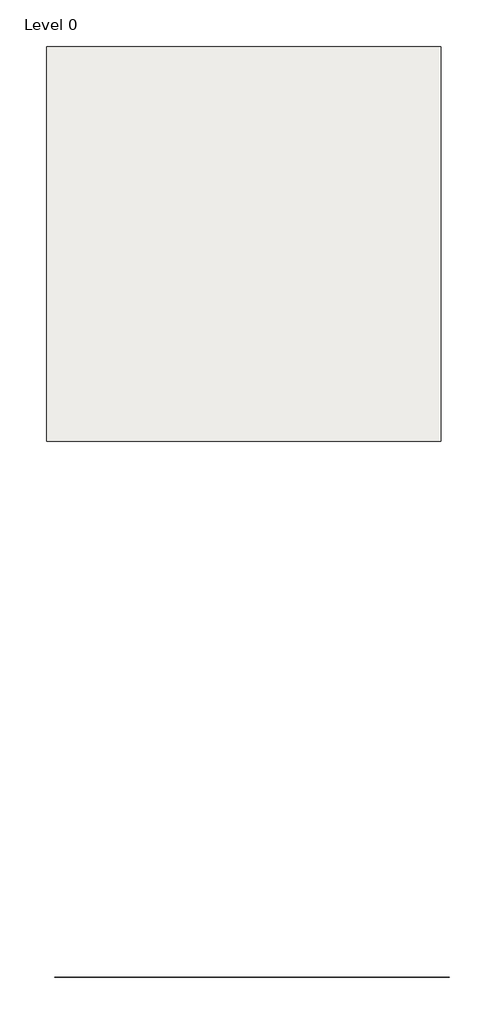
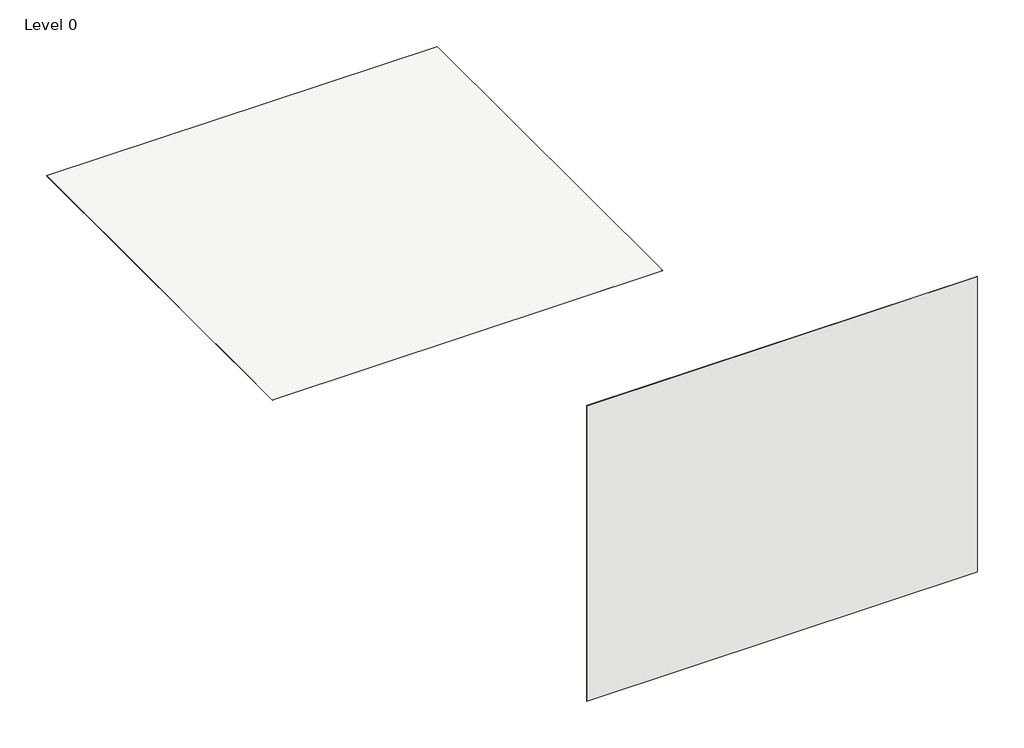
# One storey: 2 coverings.
"""IFC4 building model written with IfcOpenShell, lengths in millimetres."""

from ifc_helpers import new_model, si_unit, frame, origin, origin_with_axes, place, context, project, spatial, polyline, outline, extrude, element, save

model = new_model("IFC4")

# Units and contexts
model_context = context("Model", 3, world=origin())
ifc_project = project(units=[si_unit("LENGTHUNIT", "METRE", prefix="MILLI")], contexts=[model_context])

# Site, building, storey
site = spatial("IfcSite", under=ifc_project)
building = spatial("IfcBuilding", under=site)
storey = spatial("IfcBuildingStorey", under=building, Name="Level 0", Elevation=0.0)

# Coverings
placement = place(None, origin())
element("IfcCovering", 1, ObjectType="NBS_DeltaMembraneSystemsLtd_Polymer-modifiedCementitiousSlurries_KosterNB4000", at=placement, inside=storey, context=model_context, shape_type="SweptSolid", body=[
    extrude(outline(polyline([(1524.0, -5624.0), (1524.0, -3124.0), (4024.0, -3124.0), (4024.0, -5624.0), (1524.0, -5624.0)])), frame((0.0, 0.0, -0.8), z_axis=(0.0, 0.0, 1.0), x_axis=(1.0, 0.0, 0.0)), (0.0, 0.0, 1.0), 0.8),
])
element("IfcCovering", 2, ObjectType="NBS_DeltaMembraneSystemsLtd_Polymer-modifiedCementitiousSlurries_KosterNB4000", at=placement, inside=storey, context=model_context, shape_type="SweptSolid", body=[
    extrude(outline(polyline([(1576.188647, -9017.5439061), (4076.188647, -9017.5439061), (4076.188647, -9018.3439061), (1576.188647, -9018.3439061), (1576.188647, -9017.5439061)])), origin_with_axes(), (0.0, 0.0, 1.0), 2000.0),
])

save(model, "model.ifc")
